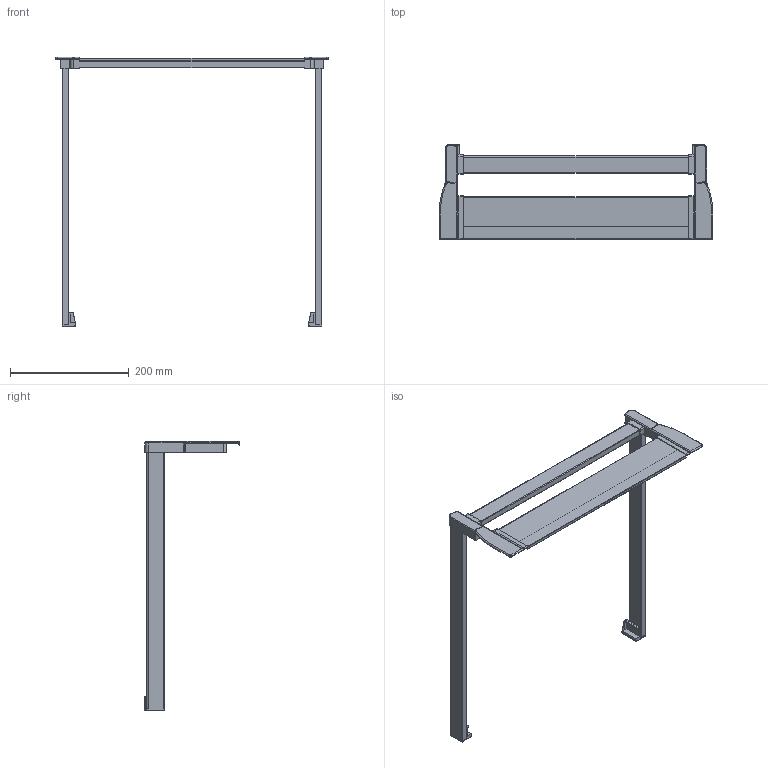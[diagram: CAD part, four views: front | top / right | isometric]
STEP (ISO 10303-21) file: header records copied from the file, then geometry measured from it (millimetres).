
FILE_DESCRIPTION (( 'STEP AP214' ), '1' );
FILE_NAME ('1_P620_NL 450_KAB 500_16er KS_.step', '2009-09-16T06:29:40', ( 'Waldinger Reinhard' ), ( 'Grass GmbH' ), 'SwSTEP 2.0', 'SolidWorks 2009', '' );
FILE_SCHEMA (( 'AUTOMOTIVE_DESIGN' ));
Length unit declared in the file: millimetre
Products named in the file (1): 1_P620_NL 450_KAB 500_16er KS_
Bounding box: 459.6 x 160.5 x 452.8 mm (x, y, z)
Volume: 839501 mm3; surface area: 200982.2 mm2
Topology: 1 solids, 1 shells, 220 faces, 578 edges, 364 vertices
Faces by surface type: plane 97, cylinder 91, torus 28, sphere 2, bspline 2
Entity records: 7004 total; most frequent: CARTESIAN_POINT 1345, DIRECTION 1198, ORIENTED_EDGE 1152, EDGE_CURVE 576, AXIS2_PLACEMENT_3D 433, VERTEX_POINT 364, VECTOR 332, LINE 332
